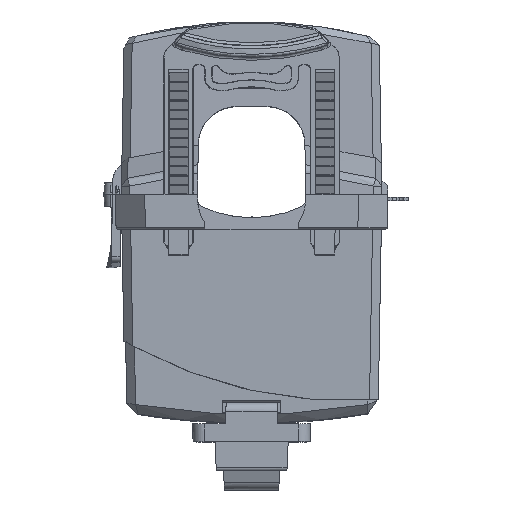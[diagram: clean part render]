
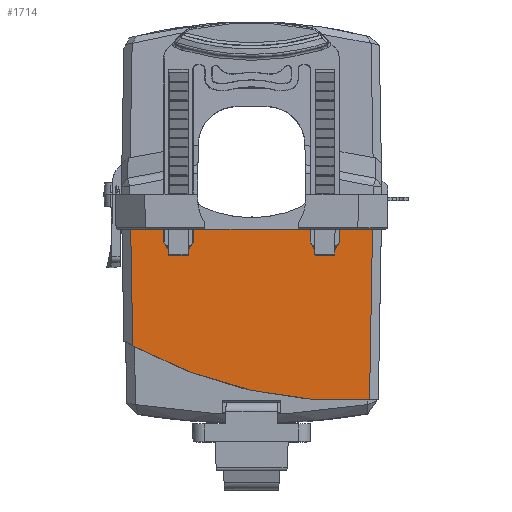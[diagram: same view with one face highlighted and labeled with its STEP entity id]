
A CAD part, top view. The second image highlights one B-rep face of the part: STEP entity #1714.
In plain terms, the highlighted planar face has unit normal (0, -0.018, 1) as drawn and (0, 0.017, 1) by its records, which use the part's own axes.
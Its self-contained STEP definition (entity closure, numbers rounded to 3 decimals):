
#771 = CARTESIAN_POINT ( 'NONE',  ( -20.75, -0.026, 22.25 ) ) ;
#1309 = DIRECTION ( 'NONE',  ( -0.017, -1., 0.017 ) ) ;
#1461 = EDGE_CURVE ( 'NONE', #35132, #30234, #7913, .T. ) ;
#1714 = ADVANCED_FACE ( 'NONE', ( #44045 ), #35709, .T. ) ;
#2915 = EDGE_CURVE ( 'NONE', #24854, #39721, #29320, .T. ) ;
#3194 = EDGE_CURVE ( 'NONE', #33365, #35132, #26068, .T. ) ;
#3403 = EDGE_CURVE ( 'NONE', #30234, #5647, #23373, .T. ) ;
#3412 = EDGE_CURVE ( 'NONE', #16521, #49543, #23484, .T. ) ;
#4229 = CARTESIAN_POINT ( 'NONE',  ( 11.075, 6., 22.145 ) ) ;
#4800 = CARTESIAN_POINT ( 'NONE',  ( 13.925, 6., 22.145 ) ) ;
#5647 = VERTEX_POINT ( 'NONE', #36261 ) ;
#6534 = VECTOR ( 'NONE', #22376, 1000. ) ;
#6949 = LINE ( 'NONE', #22550, #6534 ) ;
#7137 = CARTESIAN_POINT ( 'NONE',  ( 7.981, 6., 22.145 ) ) ;
#7239 = CARTESIAN_POINT ( 'NONE',  ( 20.736, 0.75, 22.237 ) ) ;
#7254 = DIRECTION ( 'NONE',  ( -0.017, 1., -0.017 ) ) ;
#7913 =( BOUNDED_CURVE ( )  B_SPLINE_CURVE ( 3, ( #11088, #11139, #9657, #9573 ),
 .UNSPECIFIED., .F., .F. ) 
 B_SPLINE_CURVE_WITH_KNOTS ( ( 4, 4 ),
 ( 5.779, 6.339 ),
 .UNSPECIFIED. ) 
 CURVE ( )  GEOMETRIC_REPRESENTATION_ITEM ( )  RATIONAL_B_SPLINE_CURVE ( ( 1., 0.974, 0.974, 1. ) ) 
 REPRESENTATION_ITEM ( '' )  );
#8395 = VERTEX_POINT ( 'NONE', #7137 ) ;
#9573 = CARTESIAN_POINT ( 'NONE',  ( -20.137, 35.083, 21.638 ) ) ;
#9657 = CARTESIAN_POINT ( 'NONE',  ( -5.966, 35.876, 21.624 ) ) ;
#10312 = VECTOR ( 'NONE', #61551, 1000. ) ;
#11088 = CARTESIAN_POINT ( 'NONE',  ( 20.298, 25.86, 21.799 ) ) ;
#11139 = CARTESIAN_POINT ( 'NONE',  ( 7.872, 32.719, 21.679 ) ) ;
#16521 = VERTEX_POINT ( 'NONE', #66625 ) ;
#16643 = EDGE_CURVE ( 'NONE', #45251, #8395, #18017, .T. ) ;
#17372 = VECTOR ( 'NONE', #62290, 1000. ) ;
#17627 = EDGE_CURVE ( 'NONE', #39721, #33365, #6949, .T. ) ;
#18017 = LINE ( 'NONE', #62505, #17372 ) ;
#18857 = CARTESIAN_POINT ( 'NONE',  ( 13.925, 6., 22.145 ) ) ;
#18871 = DIRECTION ( 'NONE',  ( 1., 0., 0. ) ) ;
#19780 = CARTESIAN_POINT ( 'NONE',  ( 20.298, 25.86, 21.799 ) ) ;
#20106 = ORIENTED_EDGE ( 'NONE', *, *, #16643, .T. ) ;
#22117 = ORIENTED_EDGE ( 'NONE', *, *, #47691, .T. ) ;
#22262 = VECTOR ( 'NONE', #63265, 1000. ) ;
#22376 = DIRECTION ( 'NONE',  ( 1., 0., 0. ) ) ;
#22392 = LINE ( 'NONE', #52517, #22262 ) ;
#22550 = CARTESIAN_POINT ( 'NONE',  ( -22.25, 6., 22.145 ) ) ;
#23176 = VECTOR ( 'NONE', #1309, 1000. ) ;
#23259 = ORIENTED_EDGE ( 'NONE', *, *, #3403, .T. ) ;
#23373 = LINE ( 'NONE', #771, #23176 ) ;
#23484 = LINE ( 'NONE', #68524, #23812 ) ;
#23812 = VECTOR ( 'NONE', #69226, 1000. ) ;
#24309 = CARTESIAN_POINT ( 'NONE',  ( -22.25, 6., 22.145 ) ) ;
#24463 = CARTESIAN_POINT ( 'NONE',  ( -7.981, 6., 22.145 ) ) ;
#24854 = VERTEX_POINT ( 'NONE', #4229 ) ;
#25446 = VECTOR ( 'NONE', #7254, 1000. ) ;
#26068 = LINE ( 'NONE', #7239, #25446 ) ;
#28896 = VECTOR ( 'NONE', #18871, 1000. ) ;
#29320 = LINE ( 'NONE', #18857, #28896 ) ;
#30234 = VERTEX_POINT ( 'NONE', #69250 ) ;
#30815 = ORIENTED_EDGE ( 'NONE', *, *, #52671, .T. ) ;
#31353 = ORIENTED_EDGE ( 'NONE', *, *, #2915, .T. ) ;
#31367 = CARTESIAN_POINT ( 'NONE',  ( -22.25, 6., 22.145 ) ) ;
#33022 = EDGE_CURVE ( 'NONE', #5647, #16521, #45754, .T. ) ;
#33365 = VERTEX_POINT ( 'NONE', #33702 ) ;
#33702 = CARTESIAN_POINT ( 'NONE',  ( 20.645, 6., 22.145 ) ) ;
#34047 = CARTESIAN_POINT ( 'NONE',  ( -11.075, 6., 22.145 ) ) ;
#35132 = VERTEX_POINT ( 'NONE', #19780 ) ;
#35709 = PLANE ( 'NONE',  #59951 ) ;
#36261 = CARTESIAN_POINT ( 'NONE',  ( -20.645, 6., 22.145 ) ) ;
#39721 = VERTEX_POINT ( 'NONE', #4800 ) ;
#40798 = ORIENTED_EDGE ( 'NONE', *, *, #17627, .T. ) ;
#41917 = CARTESIAN_POINT ( 'NONE',  ( -22.25, 0., 22.25 ) ) ;
#44045 = FACE_OUTER_BOUND ( 'NONE', #44647, .T. ) ;
#44647 = EDGE_LOOP ( 'NONE', ( #22117, #20106, #30815, #31353, #40798, #46217, #51075, #23259, #53904, #57739 ) ) ;
#45251 = VERTEX_POINT ( 'NONE', #24463 ) ;
#45754 = LINE ( 'NONE', #31367, #10312 ) ;
#46217 = ORIENTED_EDGE ( 'NONE', *, *, #3194, .T. ) ;
#47691 = EDGE_CURVE ( 'NONE', #49543, #45251, #62756, .T. ) ;
#49543 = VERTEX_POINT ( 'NONE', #34047 ) ;
#51075 = ORIENTED_EDGE ( 'NONE', *, *, #1461, .T. ) ;
#52517 = CARTESIAN_POINT ( 'NONE',  ( -22.25, 6., 22.145 ) ) ;
#52671 = EDGE_CURVE ( 'NONE', #8395, #24854, #22392, .T. ) ;
#53093 = DIRECTION ( 'NONE',  ( 0., -1., 0.017 ) ) ;
#53159 = DIRECTION ( 'NONE',  ( 0., 0.017, 1. ) ) ;
#53904 = ORIENTED_EDGE ( 'NONE', *, *, #33022, .T. ) ;
#57739 = ORIENTED_EDGE ( 'NONE', *, *, #3412, .T. ) ;
#59951 = AXIS2_PLACEMENT_3D ( 'NONE', #41917, #53159, #53093 ) ;
#61551 = DIRECTION ( 'NONE',  ( 1., 0., 0. ) ) ;
#62290 = DIRECTION ( 'NONE',  ( 1., 0., 0. ) ) ;
#62505 = CARTESIAN_POINT ( 'NONE',  ( -22.25, 6., 22.145 ) ) ;
#62629 = VECTOR ( 'NONE', #67093, 1000. ) ;
#62756 = LINE ( 'NONE', #24309, #62629 ) ;
#63265 = DIRECTION ( 'NONE',  ( 1., 0., 0. ) ) ;
#66625 = CARTESIAN_POINT ( 'NONE',  ( -13.925, 6., 22.145 ) ) ;
#67093 = DIRECTION ( 'NONE',  ( 1., 0., 0. ) ) ;
#68524 = CARTESIAN_POINT ( 'NONE',  ( -13.925, 6., 22.145 ) ) ;
#69226 = DIRECTION ( 'NONE',  ( 1., 0., 0. ) ) ;
#69250 = CARTESIAN_POINT ( 'NONE',  ( -20.137, 35.083, 21.638 ) ) ;
